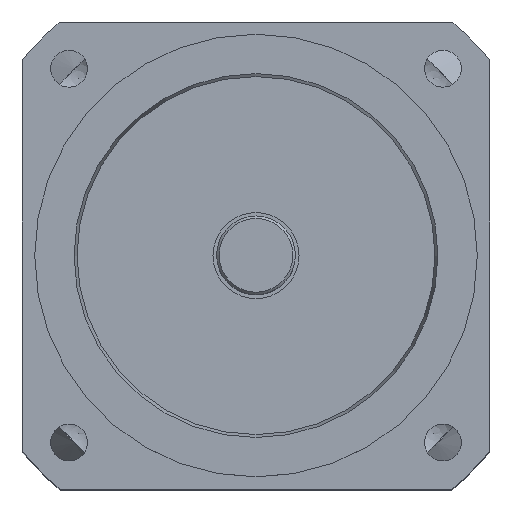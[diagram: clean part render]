
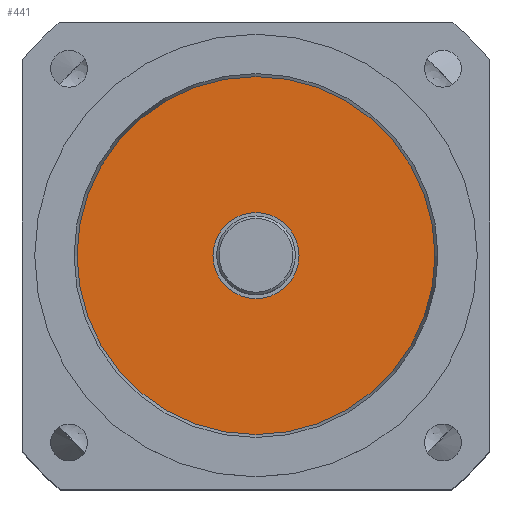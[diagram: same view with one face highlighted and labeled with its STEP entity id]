
A CAD part, top view. The second image highlights one B-rep face of the part: STEP entity #441.
In plain terms, the highlighted planar face has unit normal (0, 0, 1).
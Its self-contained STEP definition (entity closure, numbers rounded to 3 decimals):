
#179=FACE_BOUND('',#838,.T.);
#252=CIRCLE('',#2950,17.5);
#264=CIRCLE('',#2969,72.794);
#441=ADVANCED_FACE('',(#683,#179),#596,.F.);
#596=PLANE('',#2970);
#683=FACE_OUTER_BOUND('',#837,.T.);
#837=EDGE_LOOP('',(#1216));
#838=EDGE_LOOP('',(#1217));
#1216=ORIENTED_EDGE('',*,*,#2241,.T.);
#1217=ORIENTED_EDGE('',*,*,#2229,.T.);
#1930=VERTEX_POINT('',#4398);
#1942=VERTEX_POINT('',#4429);
#2229=EDGE_CURVE('',#1930,#1930,#252,.T.);
#2241=EDGE_CURVE('',#1942,#1942,#264,.T.);
#2950=AXIS2_PLACEMENT_3D('',#4397,#3434,#3435);
#2969=AXIS2_PLACEMENT_3D('',#4428,#3472,#3473);
#2970=AXIS2_PLACEMENT_3D('',#4430,#3474,#3475);
#3434=DIRECTION('',(0.,0.,-1.));
#3435=DIRECTION('',(-1.,0.,0.));
#3472=DIRECTION('',(0.,0.,1.));
#3473=DIRECTION('',(-1.,0.,0.));
#3474=DIRECTION('',(0.,0.,-1.));
#3475=DIRECTION('',(-1.,0.,0.));
#4397=CARTESIAN_POINT('',(0.,0.,286.5));
#4398=CARTESIAN_POINT('',(-17.5,0.,286.5));
#4428=CARTESIAN_POINT('',(0.,0.,286.5));
#4429=CARTESIAN_POINT('',(-72.794,0.,286.5));
#4430=CARTESIAN_POINT('',(0.,0.,286.5));
